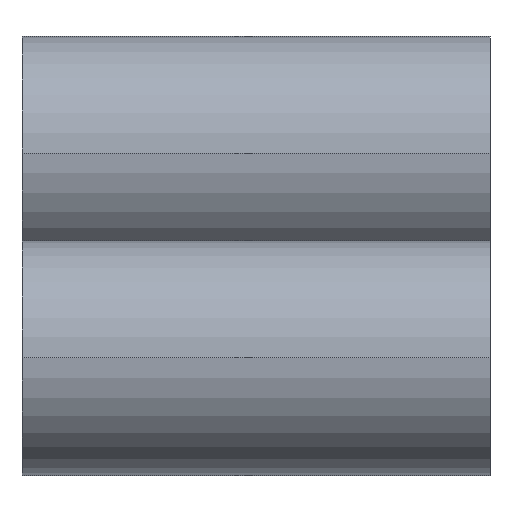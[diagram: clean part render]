
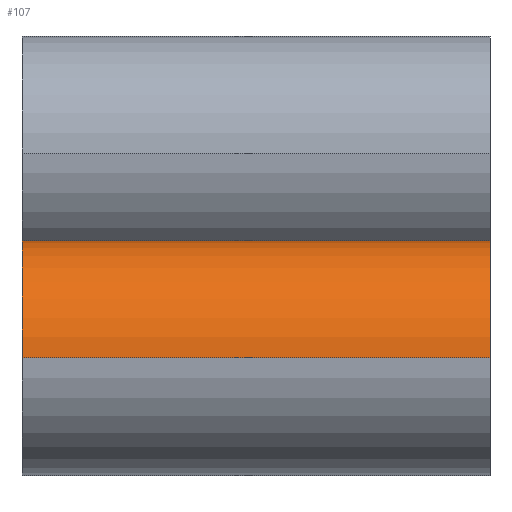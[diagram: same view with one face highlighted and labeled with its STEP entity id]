
A CAD part, top view. The second image highlights one B-rep face of the part: STEP entity #107.
In plain terms, the highlighted cylindrical face has radius 8 mm (diameter 16 mm), a partial arc.
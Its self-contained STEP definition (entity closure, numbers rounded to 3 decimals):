
#18 = DIRECTION ( 'NONE',  ( -1., 0., 0. ) ) ;
#19 = DIRECTION ( 'NONE',  ( 0., 0., -1. ) ) ;
#34 = FACE_OUTER_BOUND ( 'NONE', #375, .T. ) ;
#36 = CARTESIAN_POINT ( 'NONE',  ( 32., -7., 18. ) ) ;
#63 = DIRECTION ( 'NONE',  ( 1., 0., 0. ) ) ;
#98 = LINE ( 'NONE', #465, #493 ) ;
#107 = ADVANCED_FACE ( 'NONE', ( #34 ), #403, .T. ) ;
#123 = VERTEX_POINT ( 'NONE', #246 ) ;
#162 = VERTEX_POINT ( 'NONE', #165 ) ;
#165 = CARTESIAN_POINT ( 'NONE',  ( 0., -7., 26. ) ) ;
#173 = AXIS2_PLACEMENT_3D ( 'NONE', #461, #429, #19 ) ;
#192 = DIRECTION ( 'NONE',  ( -1., 0., 0. ) ) ;
#202 = VERTEX_POINT ( 'NONE', #215 ) ;
#210 = CIRCLE ( 'NONE', #173, 8. ) ;
#215 = CARTESIAN_POINT ( 'NONE',  ( 32., -7., 10. ) ) ;
#219 = VECTOR ( 'NONE', #18, 1000. ) ;
#241 = AXIS2_PLACEMENT_3D ( 'NONE', #36, #192, #357 ) ;
#242 = AXIS2_PLACEMENT_3D ( 'NONE', #392, #63, #305 ) ;
#246 = CARTESIAN_POINT ( 'NONE',  ( 0., -7., 10. ) ) ;
#257 = CARTESIAN_POINT ( 'NONE',  ( 32., -7., 10. ) ) ;
#260 = DIRECTION ( 'NONE',  ( -1., 0., 0. ) ) ;
#263 = EDGE_CURVE ( 'NONE', #202, #123, #470, .T. ) ;
#280 = EDGE_CURVE ( 'NONE', #494, #162, #98, .T. ) ;
#290 = EDGE_CURVE ( 'NONE', #123, #162, #210, .T. ) ;
#305 = DIRECTION ( 'NONE',  ( 0., 0., -1. ) ) ;
#338 = EDGE_CURVE ( 'NONE', #202, #494, #445, .T. ) ;
#350 = ORIENTED_EDGE ( 'NONE', *, *, #290, .T. ) ;
#357 = DIRECTION ( 'NONE',  ( 0., 0., 1. ) ) ;
#375 = EDGE_LOOP ( 'NONE', ( #500, #498, #350, #425 ) ) ;
#392 = CARTESIAN_POINT ( 'NONE',  ( 32., -7., 18. ) ) ;
#403 = CYLINDRICAL_SURFACE ( 'NONE', #241, 8. ) ;
#425 = ORIENTED_EDGE ( 'NONE', *, *, #280, .F. ) ;
#429 = DIRECTION ( 'NONE',  ( 1., 0., 0. ) ) ;
#445 = CIRCLE ( 'NONE', #242, 8. ) ;
#447 = CARTESIAN_POINT ( 'NONE',  ( 32., -7., 26. ) ) ;
#461 = CARTESIAN_POINT ( 'NONE',  ( 0., -7., 18. ) ) ;
#465 = CARTESIAN_POINT ( 'NONE',  ( 32., -7., 26. ) ) ;
#470 = LINE ( 'NONE', #257, #219 ) ;
#493 = VECTOR ( 'NONE', #260, 1000. ) ;
#494 = VERTEX_POINT ( 'NONE', #447 ) ;
#498 = ORIENTED_EDGE ( 'NONE', *, *, #263, .T. ) ;
#500 = ORIENTED_EDGE ( 'NONE', *, *, #338, .F. ) ;
